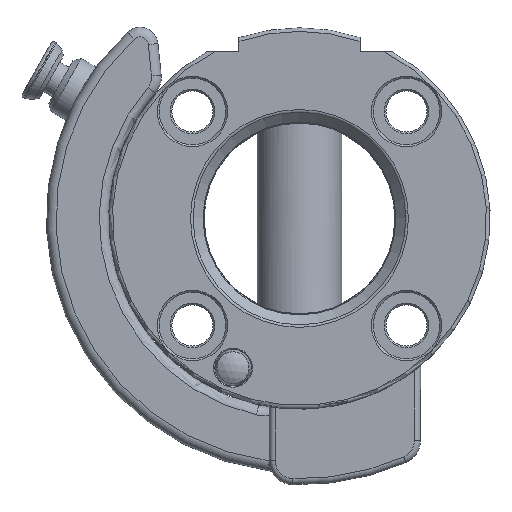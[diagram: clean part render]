
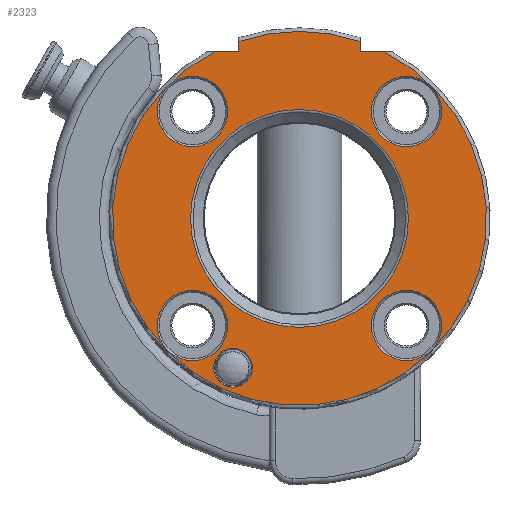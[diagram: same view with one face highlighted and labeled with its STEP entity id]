
A CAD part, front view. The second image highlights one B-rep face of the part: STEP entity #2323.
In plain terms, the highlighted planar face has unit normal (0, -1, 0).
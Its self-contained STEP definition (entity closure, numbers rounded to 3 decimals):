
#143=FACE_BOUND('',#378,.T.);
#144=FACE_BOUND('',#379,.T.);
#145=FACE_BOUND('',#380,.T.);
#146=FACE_BOUND('',#381,.T.);
#147=FACE_BOUND('',#382,.T.);
#148=FACE_BOUND('',#383,.T.);
#168=PLANE('',#2547);
#215=FACE_OUTER_BOUND('',#377,.T.);
#377=EDGE_LOOP('',(#1698,#1699,#1700,#1701,#1702,#1703));
#378=EDGE_LOOP('',(#1704));
#379=EDGE_LOOP('',(#1705));
#380=EDGE_LOOP('',(#1706));
#381=EDGE_LOOP('',(#1707));
#382=EDGE_LOOP('',(#1708));
#383=EDGE_LOOP('',(#1709,#1710));
#568=CIRCLE('',#2545,3.2);
#570=CIRCLE('',#2548,30.9);
#571=CIRCLE('',#2549,30.9);
#572=CIRCLE('',#2550,5.8);
#573=CIRCLE('',#2551,5.8);
#574=CIRCLE('',#2552,5.8);
#575=CIRCLE('',#2553,5.8);
#576=CIRCLE('',#2554,17.999);
#577=CIRCLE('',#2555,17.999);
#796=LINE('',#4378,#899);
#797=LINE('',#4382,#900);
#798=LINE('',#4384,#901);
#799=LINE('',#4387,#902);
#899=VECTOR('',#2985,4.091);
#900=VECTOR('',#2988,4.091);
#901=VECTOR('',#2989,1.737);
#902=VECTOR('',#2992,1.737);
#1061=VERTEX_POINT('',#4371);
#1062=VERTEX_POINT('',#4376);
#1063=VERTEX_POINT('',#4377);
#1064=VERTEX_POINT('',#4379);
#1065=VERTEX_POINT('',#4381);
#1066=VERTEX_POINT('',#4383);
#1067=VERTEX_POINT('',#4385);
#1068=VERTEX_POINT('',#4388);
#1069=VERTEX_POINT('',#4390);
#1070=VERTEX_POINT('',#4392);
#1071=VERTEX_POINT('',#4394);
#1072=VERTEX_POINT('',#4396);
#1073=VERTEX_POINT('',#4397);
#1310=EDGE_CURVE('',#1061,#1061,#568,.T.);
#1312=EDGE_CURVE('',#1062,#1063,#796,.T.);
#1313=EDGE_CURVE('',#1064,#1063,#570,.T.);
#1314=EDGE_CURVE('',#1064,#1065,#797,.T.);
#1315=EDGE_CURVE('',#1065,#1066,#798,.T.);
#1316=EDGE_CURVE('',#1067,#1066,#571,.T.);
#1317=EDGE_CURVE('',#1067,#1062,#799,.T.);
#1318=EDGE_CURVE('',#1068,#1068,#572,.T.);
#1319=EDGE_CURVE('',#1069,#1069,#573,.T.);
#1320=EDGE_CURVE('',#1070,#1070,#574,.T.);
#1321=EDGE_CURVE('',#1071,#1071,#575,.T.);
#1322=EDGE_CURVE('',#1072,#1073,#576,.T.);
#1323=EDGE_CURVE('',#1073,#1072,#577,.T.);
#1698=ORIENTED_EDGE('',*,*,#1312,.T.);
#1699=ORIENTED_EDGE('',*,*,#1313,.F.);
#1700=ORIENTED_EDGE('',*,*,#1314,.T.);
#1701=ORIENTED_EDGE('',*,*,#1315,.T.);
#1702=ORIENTED_EDGE('',*,*,#1316,.F.);
#1703=ORIENTED_EDGE('',*,*,#1317,.T.);
#1704=ORIENTED_EDGE('',*,*,#1318,.F.);
#1705=ORIENTED_EDGE('',*,*,#1319,.F.);
#1706=ORIENTED_EDGE('',*,*,#1310,.F.);
#1707=ORIENTED_EDGE('',*,*,#1320,.F.);
#1708=ORIENTED_EDGE('',*,*,#1321,.F.);
#1709=ORIENTED_EDGE('',*,*,#1322,.F.);
#1710=ORIENTED_EDGE('',*,*,#1323,.F.);
#2323=ADVANCED_FACE('',(#215,#143,#144,#145,#146,#147,#148),#168,.T.);
#2545=AXIS2_PLACEMENT_3D('',#4373,#2979,#2980);
#2547=AXIS2_PLACEMENT_3D('',#4375,#2983,#2984);
#2548=AXIS2_PLACEMENT_3D('',#4380,#2986,#2987);
#2549=AXIS2_PLACEMENT_3D('',#4386,#2990,#2991);
#2550=AXIS2_PLACEMENT_3D('',#4389,#2993,#2994);
#2551=AXIS2_PLACEMENT_3D('',#4391,#2995,#2996);
#2552=AXIS2_PLACEMENT_3D('',#4393,#2997,#2998);
#2553=AXIS2_PLACEMENT_3D('',#4395,#2999,#3000);
#2554=AXIS2_PLACEMENT_3D('',#4398,#3001,#3002);
#2555=AXIS2_PLACEMENT_3D('',#4399,#3003,#3004);
#2979=DIRECTION('center_axis',(0.,-1.,0.));
#2980=DIRECTION('ref_axis',(1.,0.,0.));
#2983=DIRECTION('center_axis',(0.,-1.,0.));
#2984=DIRECTION('ref_axis',(0.,0.,-1.));
#2985=DIRECTION('',(-1.,0.,0.));
#2986=DIRECTION('center_axis',(0.,1.,0.));
#2987=DIRECTION('ref_axis',(1.,0.,0.));
#2988=DIRECTION('',(-1.,0.,0.));
#2989=DIRECTION('',(0.,0.,1.));
#2990=DIRECTION('center_axis',(0.,1.,0.));
#2991=DIRECTION('ref_axis',(1.,0.,0.));
#2992=DIRECTION('',(0.,0.,-1.));
#2993=DIRECTION('center_axis',(0.,-1.,0.));
#2994=DIRECTION('ref_axis',(-1.,0.,0.));
#2995=DIRECTION('center_axis',(0.,-1.,0.));
#2996=DIRECTION('ref_axis',(-1.,0.,0.));
#2997=DIRECTION('center_axis',(0.,-1.,0.));
#2998=DIRECTION('ref_axis',(-1.,0.,0.));
#2999=DIRECTION('center_axis',(0.,-1.,0.));
#3000=DIRECTION('ref_axis',(-1.,0.,0.));
#3001=DIRECTION('center_axis',(0.,-1.,0.));
#3002=DIRECTION('ref_axis',(1.,0.,0.));
#3003=DIRECTION('center_axis',(0.,-1.,0.));
#3004=DIRECTION('ref_axis',(1.,0.,0.));
#4371=CARTESIAN_POINT('',(-14.182,0.,-24.666));
#4373=CARTESIAN_POINT('Origin',(-10.982,0.,
-24.666));
#4375=CARTESIAN_POINT('Origin',(-23.625,0.,0.));
#4376=CARTESIAN_POINT('',(-10.,0.,27.5));
#4377=CARTESIAN_POINT('',(-14.091,0.,27.5));
#4378=CARTESIAN_POINT('',(-23.286,0.,27.5));
#4379=CARTESIAN_POINT('',(14.091,0.,27.5));
#4380=CARTESIAN_POINT('Origin',(0.,0.,
0.));
#4381=CARTESIAN_POINT('',(10.,0.,27.5));
#4382=CARTESIAN_POINT('',(-1.588,0.,27.5));
#4383=CARTESIAN_POINT('',(10.,0.,29.237));
#4384=CARTESIAN_POINT('',(10.,0.,15.75));
#4385=CARTESIAN_POINT('',(-10.,0.,29.237));
#4386=CARTESIAN_POINT('Origin',(0.,0.,
0.));
#4387=CARTESIAN_POINT('',(-10.,0.,15.75));
#4388=CARTESIAN_POINT('',(-11.878,0.,17.678));
#4389=CARTESIAN_POINT('Origin',(-17.678,0.,
17.678));
#4390=CARTESIAN_POINT('',(23.478,0.,-17.678));
#4391=CARTESIAN_POINT('Origin',(17.678,0.,
-17.678));
#4392=CARTESIAN_POINT('',(-11.878,0.,-17.678));
#4393=CARTESIAN_POINT('Origin',(-17.678,0.,
-17.678));
#4394=CARTESIAN_POINT('',(23.478,0.,17.678));
#4395=CARTESIAN_POINT('Origin',(17.678,0.,
17.678));
#4396=CARTESIAN_POINT('',(-17.999,0.,0.));
#4397=CARTESIAN_POINT('',(0.,0.,17.999));
#4398=CARTESIAN_POINT('Origin',(0.,0.,
0.));
#4399=CARTESIAN_POINT('Origin',(0.,0.,
0.));
